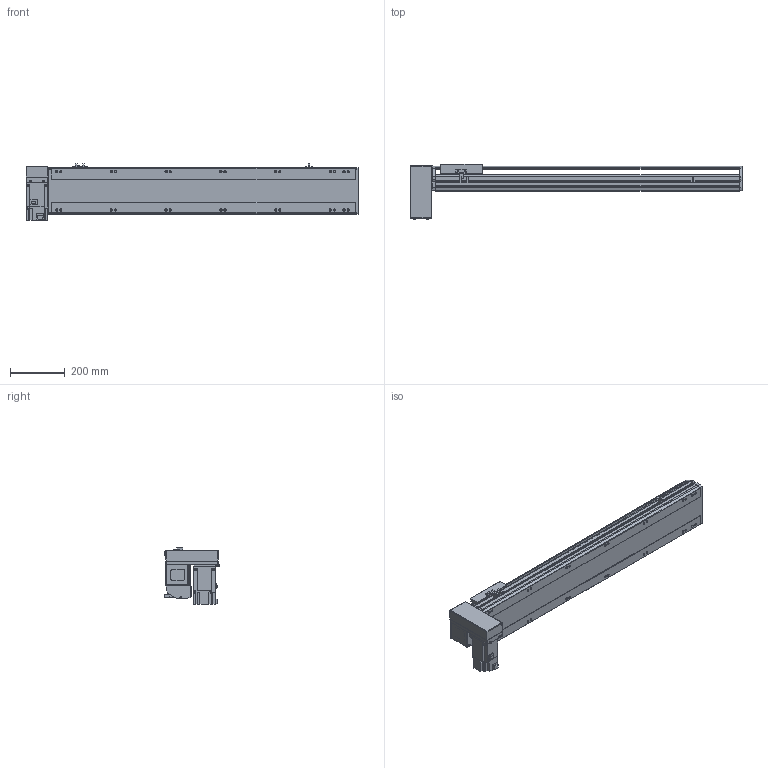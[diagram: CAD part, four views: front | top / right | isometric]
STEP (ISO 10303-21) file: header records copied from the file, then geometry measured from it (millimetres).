
FILE_DESCRIPTION(/* description */ ('STEP AP214'),/* implementation_level */ '2;1');
FILE_NAME(/* name */ 'PBS170-P40-S850-RD-T75-C1-N(0)',/* time_stamp */ '2022-06-08T07:34:54+02:00',/* author */ ('License CC BY-ND 4.0'),/* organization */ ('CADENAS'),/* preprocessor_version */ 'ST-DEVELOPER v18.102',/* originating_system */ 'PARTsolutions',/* authorisation */ ' ');
FILE_SCHEMA (('AUTOMOTIVE_DESIGN {1 0 10303 214 3 1 1}'));
Length unit declared in the file: millimetre
Products named in the file (7): PBS170-P40-S850-RD-T75-C1-N(0); PBS170_sensor; PBS170_plant; PBS170_sliser; T75-p1; PBS170T-RD_motors; PBS170-S850()_body
Assembly tree (8 placements, depth 2):
  PBS170-P40-S850-RD-T75-C1-N(0)
    PBS170_sensor  x3
    PBS170_plant
    PBS170_sliser
    T75-p1
    PBS170T-RD_motors
    PBS170-S850()_body
Bounding box: 1213 x 201 x 205.3 mm (x, y, z)
Volume: 9918887 mm3; surface area: 1312294.1 mm2
Topology: 8 solids, 8 shells, 1066 faces, 2835 edges, 1848 vertices
Faces by surface type: plane 681, cylinder 331, cone 44, sphere 8, torus 2
Full cylindrical faces by diameter (mm): 3.242 x4, 4 x2, 4.4 x4, 4.5 x6, 4.917 x4, 6 x9, 6.647 x22, 7 x2, 7.5 x4, 8 x8, 8.5 x14, 10 x4, 10.5 x14, 11 x2, 30 x2, 40 x1, 70 x1
Entity records: 30660 total; most frequent: CARTESIAN_POINT 5601, DIRECTION 5230, ORIENTED_EDGE 4968, EDGE_CURVE 2484, AXIS2_PLACEMENT_3D 1807, VERTEX_POINT 1706, LINE 1616, VECTOR 1616
